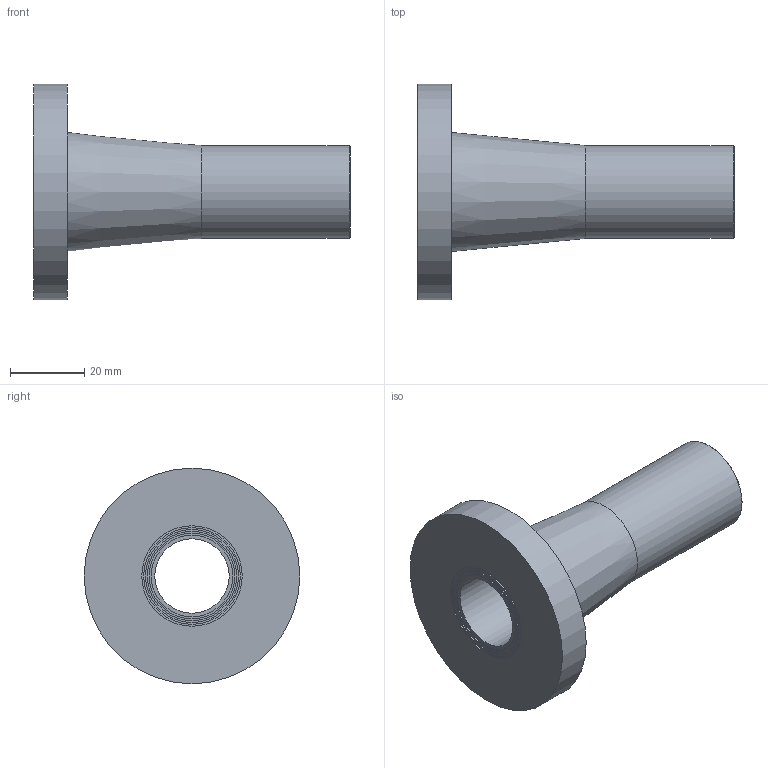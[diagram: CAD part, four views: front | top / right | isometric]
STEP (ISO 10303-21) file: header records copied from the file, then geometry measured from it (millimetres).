
FILE_DESCRIPTION(/* description */ ('Stub Flange 25'),/* implementation_level */ '2;1');
FILE_NAME(/* name */ 'C:\Dropbox\KIMPROJECTS-Inventor\99-16-3568-Processing\ElectroFusion Fittings\31.03.19\490207\490207025.ipt.stp',/* time_stamp */ '2019-03-31T18:57:37+03:00',/* author */ ('Кирилл'),/* organization */ (''),/* preprocessor_version */ 'ST-DEVELOPER v15.6',/* originating_system */ 'Autodesk Inventor 2015',/* authorisation */ '');
FILE_SCHEMA (('AUTOMOTIVE_DESIGN { 1 0 10303 214 3 1 1 }'));
Length unit declared in the file: millimetre
Products named in the file (1): 490207025
Bounding box: 85 x 58 x 58 mm (x, y, z)
Volume: 39760.1 mm3; surface area: 17807 mm2
Topology: 1 solids, 1 shells, 20 faces, 31 edges, 20 vertices
Faces by surface type: cylinder 9, plane 9, cone 2
Full cylindrical faces by diameter (mm): 20 x1, 22 x1, 23 x1, 24 x1, 25 x2, 26 x1, 27 x1, 58 x1
Entity records: 432 total; most frequent: DIRECTION 82, CARTESIAN_POINT 61, AXIS2_PLACEMENT_3D 41, EDGE_LOOP 40, ORIENTED_EDGE 40, FACE_BOUND 20, FACE_OUTER_BOUND 20, CIRCLE 20
